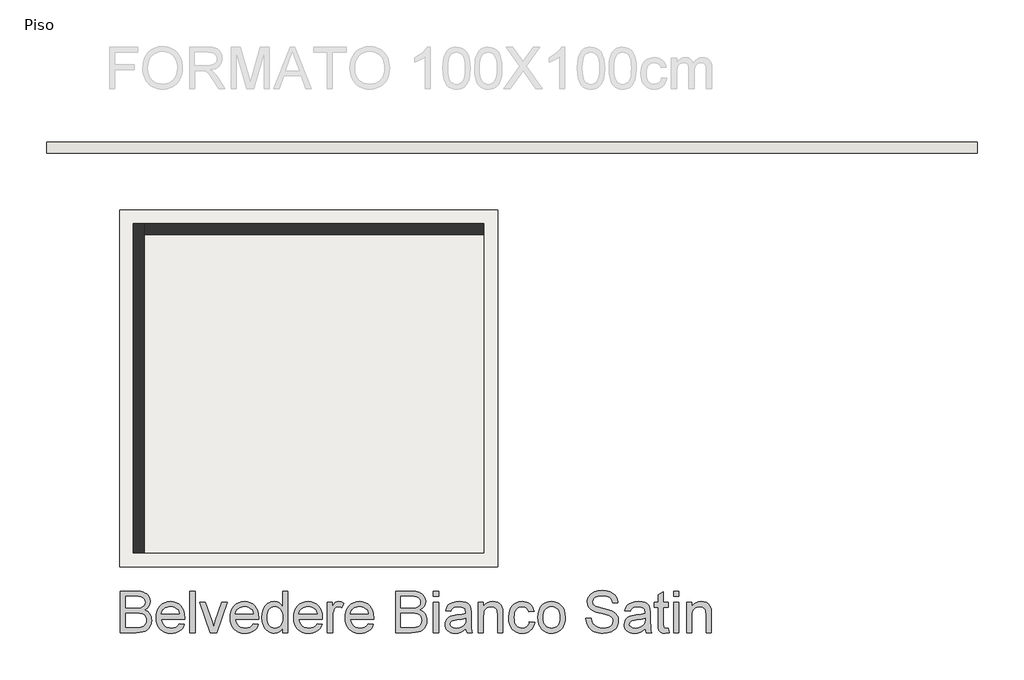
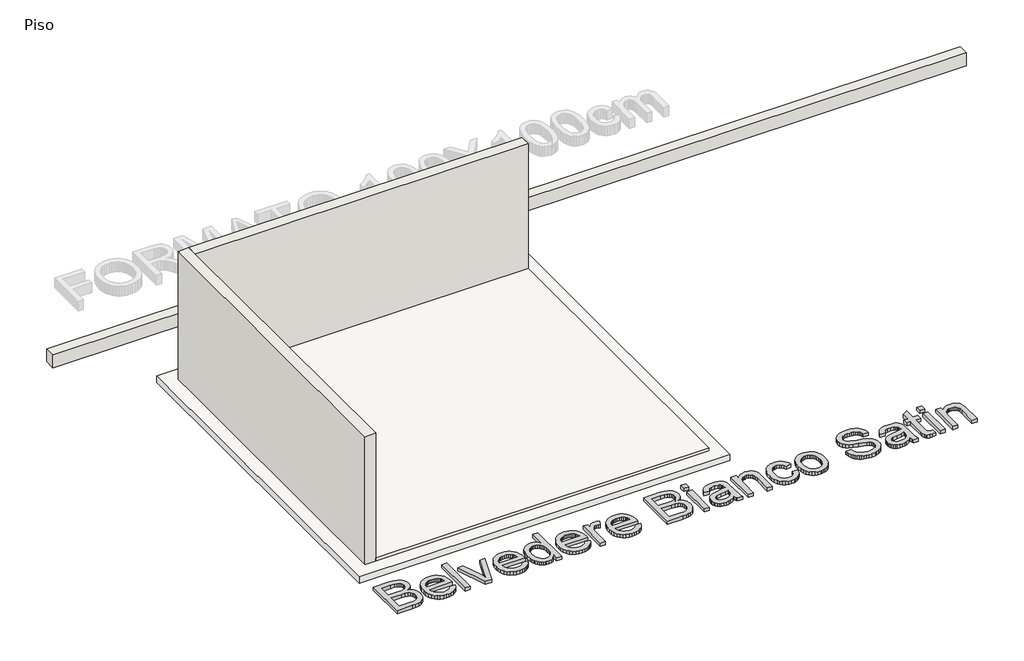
# One storey, part 1 of 2: 3 walls, 2 slabs, 1 proxy.
"""IFC4 building model written with IfcOpenShell, lengths in millimetres."""

from ifc_helpers import new_model, si_unit, frame, origin, origin_with_axes, place, context, project, spatial, polyline, outline, extrude, faceted_brep, element, save

model = new_model("IFC4")

# Units and contexts
model_context = context("Model", 3, world=origin())
ifc_project = project(units=[si_unit("LENGTHUNIT", "METRE", prefix="MILLI")], contexts=[model_context])

# Site, building, storey
site = spatial("IfcSite", under=ifc_project)
building = spatial("IfcBuilding", under=site)
storey = spatial("IfcBuildingStorey", under=building, Name="Piso", Elevation=0.0)

# Proxy
placement = place(None, origin())
element("IfcBuildingElementProxy", 1, Name="600mm Arial", ObjectType="600mm Arial", at=placement, inside=storey, context=model_context, shape_type="SweptSolid", body=[
    extrude(outline(polyline([(92756.7318027, -5192.0704299), (92756.7318027, -4589.332569), (92986.7316261, -4589.332569), (93049.9889352, -4593.765547), (93099.377093, -4607.0644812), (93119.4542529, -4617.1214552), (93137.2321503, -4629.5604652), (93152.7107853, -4644.3815111), (93165.8901578, -4661.5845928), (93183.9347696, -4699.2557092), (93189.9496402, -4738.692659), (93184.8912628, -4774.9842179), (93169.7161305, -4809.1052729), (93144.3138787, -4838.9588968), (93108.5741429, -4862.4481622), (93131.3138487, -4872.1418528), (93151.2668484, -4884.7418111), (93168.433142, -4900.2480372), (93182.8127295, -4918.6605311), (93194.1756847, -4939.4182727), (93202.2920812, -4961.9602419), (93207.1619191, -4986.2864388), (93208.7851984, -5012.3968635), (93204.3522203, -5054.4273814), (93191.0532862, -5093.4044788), (93171.2060526, -5126.5506466), (93147.128176, -5151.0883756), (93117.6424341, -5168.857076), (93081.5716045, -5181.6961576), (93037.7384647, -5189.4768618), (92984.9657925, -5192.0704299), (92756.7318027, -5192.0704299)]), holes=[polyline([(92832.0740353, -4834.194825), (92969.6619015, -4834.194825), (93017.7808665, -4832.5761442), (93050.0073293, -4827.7201019), (93078.1319078, -4816.5548833), (93098.3470234, -4799.8346466), (93110.5423116, -4777.8169092), (93114.6074076, -4750.7591885), (93110.8182231, -4724.492414), (93099.4506694, -4701.6101539), (93081.0197815, -4683.7494831), (93056.040594, -4672.5474763), (93017.7072901, -4666.6429703), (92959.2140529, -4664.6748016), (92832.0740353, -4664.6748016), (92832.0740353, -4834.194825)]), polyline([(92832.0740353, -5116.7281973), (92986.5844733, -5116.7281973), (93042.5025366, -5113.7851413), (93068.4566113, -5107.2552359), (93089.8121611, -5097.3776043), (93107.1761913, -5083.2325416), (93121.1557071, -5063.9003428), (93130.3711511, -5040.2455305), (93133.4429658, -5013.1326274), (93129.8377222, -4981.6419287), (93119.0219916, -4954.5658138), (93100.1312511, -4933.394205), (93072.3009782, -4919.6170243), (93032.8824224, -4912.0570493), (92979.2268334, -4909.5370576), (92832.0740353, -4909.5370576), (92832.0740353, -5116.7281973)])]), origin_with_axes(), (0.0, 0.0, 1.0), 50.0),
    extrude(outline(polyline([(93612.8667819, -5060.2215228), (93686.7374865, -5069.6393019), (93675.4113196, -5099.2262114), (93660.1212242, -5125.2998478), (93640.8672002, -5147.8602111), (93617.6492478, -5166.9073014), (93590.7064902, -5182.0364485), (93560.2780507, -5192.8429821), (93526.3639292, -5199.3269022), (93488.9641259, -5201.488209), (93442.2155214, -5197.7588052), (93400.5620825, -5186.5705941), (93364.0038092, -5167.9235754), (93332.5407016, -5141.8177494), (93307.2396173, -5108.9796828), (93289.1674143, -5070.1359426), (93278.3240925, -5025.2865289), (93274.7096519, -4974.4314415), (93278.3608807, -4921.8519074), (93289.3145671, -4875.507973), (93307.5707111, -4835.3996385), (93333.1293128, -4801.5269038), (93364.5096469, -4774.6163359), (93400.2309887, -4755.3945016), (93440.293338, -4743.8614011), (93484.6966948, -4740.0170342), (93527.6699103, -4743.852204), (93566.5320446, -4755.3577134), (93601.2830976, -4774.5335624), (93631.9230692, -4801.379751), (93656.9344464, -4835.1789093), (93674.7997158, -4875.2136674), (93685.5188774, -4921.4840254), (93689.0919313, -4973.9899832), (93688.6504729, -4994.2970693), (93350.0518845, -4994.2970693), (93354.4158847, -5024.3622253), (93363.0933013, -5050.6933791), (93376.0841342, -5073.2905307), (93393.3883836, -5092.15368), (93414.0495561, -5107.0253097), (93437.1111587, -5117.6479023), (93462.5731913, -5124.0214578), (93490.4356539, -5126.1459764), (93530.5347914, -5122.209639), (93564.3063585, -5110.400627), (93591.7503554, -5089.9831762), (93612.8667819, -5060.2215228)]), holes=[polyline([(93350.0518845, -4918.9548367), (93613.7496987, -4918.9548367), (93603.5593674, -4879.1500048), (93594.7945789, -4863.4966259), (93583.5833751, -4850.6759384), (93563.0371656, -4835.2248946), (93539.6582649, -4824.1884347), (93513.4466727, -4817.5665588), (93484.4023892, -4815.3592668), (93457.910287, -4817.1205019), (93433.6162797, -4822.404207), (93411.5203674, -4831.2103823), (93391.62255, -4843.5390277), (93374.9253059, -4858.819926), (93362.4311137, -4876.4828603), (93354.1399732, -4896.5278305), (93350.0518845, -4918.9548367)])]), origin_with_axes(), (0.0, 0.0, 1.0), 50.0),
    extrude(outline(polyline([(93764.4341639, -5192.0704299), (93764.4341639, -4589.332569), (93839.7763965, -4589.332569), (93839.7763965, -5192.0704299), (93764.4341639, -5192.0704299)])), origin_with_axes(), (0.0, 0.0, 1.0), 50.0),
    extrude(outline(polyline([(94061.3885104, -5192.0704299), (93905.7008501, -4749.4348133), (93985.4576666, -4749.4348133), (94079.7826102, -5014.6041554), (94108.1831002, -5103.7787511), (94135.994979, -5019.6073506), (94230.9085338, -4749.4348133), (94310.6653503, -4749.4348133), (94156.8906764, -5192.0704299), (94061.3885104, -5192.0704299)])), origin_with_axes(), (0.0, 0.0, 1.0), 50.0),
    extrude(outline(polyline([(94686.4935966, -5060.2215228), (94760.3643012, -5069.6393019), (94749.0381343, -5099.2262114), (94733.7480389, -5125.2998478), (94714.494015, -5147.8602111), (94691.2760626, -5166.9073014), (94664.3333049, -5182.0364485), (94633.9048654, -5192.8429821), (94599.990744, -5199.3269022), (94562.5909406, -5201.488209), (94515.8423361, -5197.7588052), (94474.1888972, -5186.5705941), (94437.6306239, -5167.9235754), (94406.1675163, -5141.8177494), (94380.8664321, -5108.9796828), (94362.7942291, -5070.1359426), (94351.9509073, -5025.2865289), (94348.3364666, -4974.4314415), (94351.9876955, -4921.8519074), (94362.9413819, -4875.507973), (94381.1975259, -4835.3996385), (94406.7561275, -4801.5269038), (94438.1364617, -4774.6163359), (94473.8578034, -4755.3945016), (94513.9201527, -4743.8614011), (94558.3235095, -4740.0170342), (94601.2967251, -4743.852204), (94640.1588593, -4755.3577134), (94674.9099123, -4774.5335624), (94705.549884, -4801.379751), (94730.5612611, -4835.1789093), (94748.4265305, -4875.2136674), (94759.1456921, -4921.4840254), (94762.718746, -4973.9899832), (94762.2772876, -4994.2970693), (94423.6786993, -4994.2970693), (94428.0426994, -5024.3622253), (94436.720116, -5050.6933791), (94449.7109489, -5073.2905307), (94467.0151983, -5092.15368), (94487.6763708, -5107.0253097), (94510.7379734, -5117.6479023), (94536.200006, -5124.0214578), (94564.0624686, -5126.1459764), (94604.1616061, -5122.209639), (94637.9331733, -5110.400627), (94665.3771701, -5089.9831762), (94686.4935966, -5060.2215228)]), holes=[polyline([(94423.6786993, -4918.9548367), (94687.3765134, -4918.9548367), (94677.1861821, -4879.1500048), (94668.4213936, -4863.4966259), (94657.2101898, -4850.6759384), (94636.6639804, -4835.2248946), (94613.2850796, -4824.1884347), (94587.0734874, -4817.5665588), (94558.0292039, -4815.3592668), (94531.5371017, -4817.1205019), (94507.2430945, -4822.404207), (94485.1471821, -4831.2103823), (94465.2493647, -4843.5390277), (94448.5521207, -4858.819926), (94436.0579284, -4876.4828603), (94427.7667879, -4896.5278305), (94423.6786993, -4918.9548367)])]), origin_with_axes(), (0.0, 0.0, 1.0), 50.0),
    extrude(outline(polyline([(95111.1765718, -5192.0704299), (95111.1765718, -5120.9956284), (95088.6346026, -5156.2111324), (95061.3285615, -5181.3650638), (95029.2584486, -5196.4574227), (94992.4242638, -5201.488209), (94967.5554409, -5199.6671931), (94943.7166876, -5194.2041455), (94920.9080039, -5185.0990661), (94899.1293898, -5172.351955), (94879.061427, -5156.3444896), (94861.3846971, -5137.4583477), (94846.0992002, -5115.6935292), (94833.2049363, -5091.050034), (94822.9686198, -5063.9969118), (94815.6569651, -5035.0032121), (94809.8076414, -4971.19408), (94815.1971126, -4908.1758942), (94831.3655263, -4851.2645496), (94843.4872381, -4825.908283), (94858.2944884, -4803.6974076), (94875.7872772, -4784.6319232), (94895.9656047, -4768.7118298), (94918.1166993, -4756.1578568), (94941.5277898, -4747.1907331), (94966.1988761, -4741.8104589), (94992.1299582, -4740.0170342), (95028.9917341, -4745.1489881), (95061.5860789, -4760.5448496), (95089.2140167, -4784.1444795), (95111.1765718, -4813.8877389), (95111.1765718, -4589.332569), (95186.5188045, -4589.332569), (95186.5188045, -5192.0704299), (95111.1765718, -5192.0704299)]), holes=[polyline([(94885.149874, -4970.8997744), (94887.2743925, -5007.435055), (94893.6479481, -5039.049914), (94904.2705407, -5065.7443513), (94919.1421704, -5087.5183669), (94936.9016737, -5104.417946), (94956.1878873, -5116.489074), (94977.0008112, -5123.7317508), (94999.3404453, -5126.1459764), (95021.7858455, -5123.8421154), (95042.4746092, -5116.9305324), (95061.4067364, -5105.4112274), (95078.5822271, -5089.2842004), (95092.8422529, -5068.4206928), (95103.0279857, -5042.6919458), (95109.1394253, -5012.0979593), (95111.1765718, -4976.6387335), (95109.1026371, -4937.7628037), (95102.8808329, -4904.4234979), (95092.5111591, -4876.6208161), (95077.9936159, -4854.3547583), (95060.4410462, -4837.2942308), (95040.9662931, -4825.1081397), (95019.5693565, -4817.7964851), (94996.2502366, -4815.3592668), (94973.469144, -4817.699916), (94952.6562201, -4824.7218636), (94933.8114649, -4836.4251096), (94916.9348784, -4852.8096539), (94903.028939, -4874.2341816), (94893.0961251, -4901.0573776), (94887.1364368, -4933.2792419), (94885.149874, -4970.8997744)])]), origin_with_axes(), (0.0, 0.0, 1.0), 50.0),
    extrude(outline(polyline([(95609.4359461, -5060.2215228), (95683.3066507, -5069.6393019), (95671.9804838, -5099.2262114), (95656.6903884, -5125.2998478), (95637.4363645, -5147.8602111), (95614.2184121, -5166.9073014), (95587.2756544, -5182.0364485), (95556.8472149, -5192.8429821), (95522.9330935, -5199.3269022), (95485.5332901, -5201.488209), (95438.7846856, -5197.7588052), (95397.1312467, -5186.5705941), (95360.5729734, -5167.9235754), (95329.1098658, -5141.8177494), (95303.8087816, -5108.9796828), (95285.7365786, -5070.1359426), (95274.8932568, -5025.2865289), (95271.2788161, -4974.4314415), (95274.9300449, -4921.8519074), (95285.8837314, -4875.507973), (95304.1398754, -4835.3996385), (95329.698477, -4801.5269038), (95361.0788112, -4774.6163359), (95396.8001529, -4755.3945016), (95436.8625022, -4743.8614011), (95481.265859, -4740.0170342), (95524.2390746, -4743.852204), (95563.1012088, -4755.3577134), (95597.8522618, -4774.5335624), (95628.4922335, -4801.379751), (95653.5036106, -4835.1789093), (95671.36888, -4875.2136674), (95682.0880416, -4921.4840254), (95685.6610955, -4973.9899832), (95685.2196371, -4994.2970693), (95346.6210488, -4994.2970693), (95350.9850489, -5024.3622253), (95359.6624655, -5050.6933791), (95372.6532984, -5073.2905307), (95389.9575478, -5092.15368), (95410.6187203, -5107.0253097), (95433.6803229, -5117.6479023), (95459.1423555, -5124.0214578), (95487.0048181, -5126.1459764), (95527.1039556, -5122.209639), (95560.8755228, -5110.400627), (95588.3195196, -5089.9831762), (95609.4359461, -5060.2215228)]), holes=[polyline([(95346.6210488, -4918.9548367), (95610.3188629, -4918.9548367), (95600.1285316, -4879.1500048), (95591.3637431, -4863.4966259), (95580.1525393, -4850.6759384), (95559.6063299, -4835.2248946), (95536.2274291, -4824.1884347), (95510.0158369, -4817.5665588), (95480.9715534, -4815.3592668), (95454.4794512, -4817.1205019), (95430.185444, -4822.404207), (95408.0895316, -4831.2103823), (95388.1917142, -4843.5390277), (95371.4944702, -4858.819926), (95359.0002779, -4876.4828603), (95350.7091374, -4896.5278305), (95346.6210488, -4918.9548367)])]), origin_with_axes(), (0.0, 0.0, 1.0), 50.0),
    extrude(outline(polyline([(95761.0033281, -5192.0704299), (95761.0033281, -4749.4348133), (95826.9277817, -4749.4348133), (95826.9277817, -4814.9178084), (95851.2815697, -4776.9523865), (95873.7223714, -4754.5851612), (95896.2367496, -4743.659066), (95920.8112668, -4740.0170342), (95958.3352303, -4745.8295697), (95996.447805, -4763.2671763), (95971.2846766, -4830.8103106), (95944.7971729, -4819.2220278), (95918.3096693, -4815.3592668), (95895.8136853, -4819.074875), (95875.7089342, -4830.2216994), (95859.4669441, -4847.9536116), (95848.559243, -4871.4244829), (95839.3989813, -4913.5101831), (95836.3455607, -4959.4218561), (95836.3455607, -5192.0704299), (95761.0033281, -5192.0704299)])), origin_with_axes(), (0.0, 0.0, 1.0), 50.0),
    extrude(outline(polyline([(96353.4404932, -5060.2215228), (96427.3111978, -5069.6393019), (96415.9850309, -5099.2262114), (96400.6949354, -5125.2998478), (96381.4409115, -5147.8602111), (96358.2229591, -5166.9073014), (96331.2802015, -5182.0364485), (96300.8517619, -5192.8429821), (96266.9376405, -5199.3269022), (96229.5378372, -5201.488209), (96182.7892326, -5197.7588052), (96141.1357937, -5186.5705941), (96104.5775205, -5167.9235754), (96073.1144128, -5141.8177494), (96047.8133286, -5108.9796828), (96029.7411256, -5070.1359426), (96018.8978038, -5025.2865289), (96015.2833632, -4974.4314415), (96018.934592, -4921.8519074), (96029.8882784, -4875.507973), (96048.1444224, -4835.3996385), (96073.703024, -4801.5269038), (96105.0833582, -4774.6163359), (96140.8046999, -4755.3945016), (96180.8670492, -4743.8614011), (96225.270406, -4740.0170342), (96268.2436216, -4743.852204), (96307.1057559, -4755.3577134), (96341.8568088, -4774.5335624), (96372.4967805, -4801.379751), (96397.5081577, -4835.1789093), (96415.373427, -4875.2136674), (96426.0925887, -4921.4840254), (96429.6656426, -4973.9899832), (96429.2241842, -4994.2970693), (96090.6255958, -4994.2970693), (96094.989596, -5024.3622253), (96103.6670125, -5050.6933791), (96116.6578455, -5073.2905307), (96133.9620948, -5092.15368), (96154.6232674, -5107.0253097), (96177.68487, -5117.6479023), (96203.1469026, -5124.0214578), (96231.0093652, -5126.1459764), (96271.1085026, -5122.209639), (96304.8800698, -5110.400627), (96332.3240666, -5089.9831762), (96353.4404932, -5060.2215228)]), holes=[polyline([(96090.6255958, -4918.9548367), (96354.3234099, -4918.9548367), (96344.1330787, -4879.1500048), (96335.3682901, -4863.4966259), (96324.1570863, -4850.6759384), (96303.6108769, -4835.2248946), (96280.2319761, -4824.1884347), (96254.020384, -4817.5665588), (96224.9761004, -4815.3592668), (96198.4839983, -4817.1205019), (96174.189991, -4822.404207), (96152.0940787, -4831.2103823), (96132.1962613, -4843.5390277), (96115.4990172, -4858.819926), (96103.0048249, -4876.4828603), (96094.7136845, -4896.5278305), (96090.6255958, -4918.9548367)])]), origin_with_axes(), (0.0, 0.0, 1.0), 50.0),
    extrude(outline(polyline([(96749.8701312, -5192.0704299), (96749.8701312, -4589.332569), (96979.8699545, -4589.332569), (97043.1272636, -4593.765547), (97092.5154215, -4607.0644812), (97112.5925814, -4617.1214552), (97130.3704788, -4629.5604652), (97145.8491137, -4644.3815111), (97159.0284862, -4661.5845928), (97177.0730981, -4699.2557092), (97183.0879687, -4738.692659), (97178.0295912, -4774.9842179), (97162.8544589, -4809.1052729), (97137.4522072, -4838.9588968), (97101.7124713, -4862.4481622), (97124.4521772, -4872.1418528), (97144.4051769, -4884.7418111), (97161.5714705, -4900.2480372), (97175.951058, -4918.6605311), (97187.3140131, -4939.4182727), (97195.4304096, -4961.9602419), (97200.3002475, -4986.2864388), (97201.9235268, -5012.3968635), (97197.4905488, -5054.4273814), (97184.1916147, -5093.4044788), (97164.344381, -5126.5506466), (97140.2665044, -5151.0883756), (97110.7807625, -5168.857076), (97074.7099329, -5181.6961576), (97030.8767932, -5189.4768618), (96978.104121, -5192.0704299), (96749.8701312, -5192.0704299)]), holes=[polyline([(96825.2123638, -4834.194825), (96962.80023, -4834.194825), (97010.9191949, -4832.5761442), (97043.1456577, -4827.7201019), (97071.2702362, -4816.5548833), (97091.4853519, -4799.8346466), (97103.68064, -4777.8169092), (97107.7457361, -4750.7591885), (97103.9565515, -4724.492414), (97092.5889979, -4701.6101539), (97074.1581099, -4683.7494831), (97049.1789224, -4672.5474763), (97010.8456185, -4666.6429703), (96952.3523813, -4664.6748016), (96825.2123638, -4664.6748016), (96825.2123638, -4834.194825)]), polyline([(96825.2123638, -5116.7281973), (96979.7228017, -5116.7281973), (97035.640865, -5113.7851413), (97061.5949398, -5107.2552359), (97082.9504896, -5097.3776043), (97100.3145198, -5083.2325416), (97114.2940356, -5063.9003428), (97123.5094796, -5040.2455305), (97126.5812942, -5013.1326274), (97122.9760507, -4981.6419287), (97112.16032, -4954.5658138), (97093.2695796, -4933.394205), (97065.4393066, -4919.6170243), (97026.0207508, -4912.0570493), (96972.3651618, -4909.5370576), (96825.2123638, -4909.5370576), (96825.2123638, -5116.7281973)])]), origin_with_axes(), (0.0, 0.0, 1.0), 50.0),
    extrude(outline(polyline([(97296.1013176, -4664.6748016), (97296.1013176, -4589.332569), (97371.4435502, -4589.332569), (97371.4435502, -4664.6748016), (97296.1013176, -4664.6748016)])), origin_with_axes(), (0.0, 0.0, 1.0), 50.0),
    extrude(outline(polyline([(97296.1013176, -5192.0704299), (97296.1013176, -4749.4348133), (97371.4435502, -4749.4348133), (97371.4435502, -5192.0704299), (97296.1013176, -5192.0704299)])), origin_with_axes(), (0.0, 0.0, 1.0), 50.0),
    extrude(outline(polyline([(97766.9902714, -5135.5637554), (97730.9930182, -5166.4290548), (97693.9289072, -5186.6257764), (97654.9518098, -5197.7726008), (97613.2155974, -5201.488209), (97579.669358, -5199.2533259), (97550.252594, -5192.5486765), (97524.9653053, -5181.3742609), (97503.8074921, -5165.730079), (97487.101051, -5146.6094123), (97475.1678788, -5125.0055422), (97468.0079754, -5100.9184685), (97465.621341, -5074.3481914), (97469.2265845, -5043.11501), (97480.0423152, -5014.7513082), (97496.7257637, -4990.4710965), (97517.9341607, -4971.4883856), (97542.8581659, -4957.1409878), (97570.6884388, -4946.7667155), (97635.8771283, -4935.4359501), (97712.9116181, -4923.5165734), (97766.548813, -4909.5370576), (97766.9902714, -4892.7616386), (97761.8031353, -4859.1372243), (97755.3192151, -4846.6844187), (97746.2417269, -4837.1378809), (97730.5515598, -4827.6097373), (97711.4400902, -4820.8039204), (97662.9532432, -4815.3592668), (97618.0716398, -4818.9829045), (97586.7280938, -4829.8538174), (97565.3541499, -4849.9585685), (97550.3813527, -4881.2837204), (97475.0391201, -4871.8659413), (97488.117325, -4830.6631578), (97507.6334648, -4798.2895423), (97535.4085555, -4773.531084), (97573.2636128, -4755.1737724), (97619.5615619, -4743.8062188), (97672.6653279, -4740.0170342), (97723.5985901, -4743.3647604), (97763.9736391, -4753.4079388), (97794.4158742, -4768.5094947), (97815.5506948, -4787.0323532), (97829.5669988, -4809.9330074), (97838.6536841, -4838.1679505), (97842.332504, -4904.0924041), (97842.332504, -4997.8287364), (97846.1584768, -5128.7211503), (97851.8238595, -5161.0763718), (97861.1680622, -5192.0704299), (97785.8258296, -5192.0704299), (97773.7593001, -5165.8772318), (97766.9902714, -5135.5637554)]), holes=[polyline([(97766.9902714, -4984.8792902), (97716.3697089, -4997.4240662), (97645.4420602, -5007.9822795), (97580.6212527, -5020.1959617), (97563.7538632, -5028.546883), (97551.2642695, -5040.0615895), (97543.5387476, -5053.8571643), (97540.9635736, -5069.0506907), (97546.573774, -5091.4547042), (97563.4043753, -5109.8120158), (97591.0874954, -5122.0624862), (97629.2552524, -5126.1459764), (97669.7222719, -5121.6394219), (97705.4804018, -5108.1197586), (97734.4695031, -5088.1989486), (97754.6294364, -5064.488954), (97763.5689689, -5040.0615895), (97766.548813, -5006.2164459), (97766.9902714, -4984.8792902)])]), origin_with_axes(), (0.0, 0.0, 1.0), 50.0),
    extrude(outline(polyline([(97945.9280739, -5192.0704299), (97945.9280739, -4749.4348133), (98021.2703065, -4749.4348133), (98021.2703065, -4811.2389885), (98047.4451104, -4780.0793835), (98078.8806269, -4757.8225228), (98115.576856, -4744.4684064), (98157.5337975, -4740.0170342), (98194.6714849, -4743.6038837), (98228.6821754, -4754.364432), (98257.0458772, -4770.95591), (98277.2425987, -4792.0355483), (98290.9462031, -4817.5481647), (98299.8305532, -4847.4385768), (98303.8036788, -4920.2792119), (98303.8036788, -5192.0704299), (98228.4614462, -5192.0704299), (98228.4614462, -4930.4327549), (98226.2909424, -4891.4740516), (98219.7794311, -4863.7725374), (98207.7680839, -4843.9253038), (98189.0980727, -4828.5294423), (98165.1673489, -4818.6518107), (98137.3738642, -4815.3592668), (98114.4962026, -4817.2078739), (98093.2464188, -4822.7536949), (98073.6245129, -4831.9967301), (98055.6304848, -4844.9369792), (98040.5979068, -4863.0459705), (98029.8603511, -4887.7952317), (98023.4178176, -4919.1847629), (98021.2703065, -4957.2145642), (98021.2703065, -5192.0704299), (97945.9280739, -5192.0704299)])), origin_with_axes(), (0.0, 0.0, 1.0), 50.0),
    extrude(outline(polyline([(98689.9326209, -5031.9681856), (98765.2748535, -5041.3859647), (98757.0802821, -5076.937161), (98744.2687916, -5108.3956701), (98726.8403821, -5135.761492), (98704.7950535, -5159.0346267), (98679.061708, -5177.608069), (98650.5692474, -5190.8748134), (98619.317672, -5198.8348601), (98585.3069815, -5201.488209), (98543.0511358, -5197.7863964), (98505.1638888, -5186.6809587), (98471.6452406, -5168.1718958), (98442.495191, -5142.2592077), (98418.9001595, -5109.4303382), (98402.0465656, -5070.1727308), (98391.9344093, -5024.4863855), (98388.5636905, -4972.3713024), (98394.3210437, -4905.3248088), (98401.5177352, -4875.1538866), (98411.5931034, -4847.2178476), (98424.616126, -4822.0777118), (98440.655781, -4800.2944991), (98459.7120683, -4781.8682097), (98481.7849881, -4766.7988435), (98505.8766602, -4755.0818019), (98530.9892049, -4746.7124865), (98557.1226221, -4741.6908973), (98584.2769119, -4740.0170342), (98617.7035897, -4742.3162967), (98647.9388912, -4749.2140841), (98674.9828163, -4760.7103965), (98698.8353652, -4776.8052337), (98719.0918676, -4797.130714), (98735.3476532, -4821.3189552), (98747.6027222, -4849.3699573), (98755.8570745, -4881.2837204), (98680.5148418, -4890.7014994), (98666.8480257, -4857.8312432), (98645.5660523, -4834.2684014), (98617.846144, -4820.0865505), (98584.8655231, -4815.3592668), (98559.2655348, -4817.6861205), (98536.176341, -4824.6666813), (98515.5979419, -4836.3009494), (98497.5303374, -4852.5889247), (98482.8196562, -4873.9076864), (98472.3120267, -4900.6343133), (98466.007449, -4932.7688056), (98463.9059231, -4970.3111632), (98465.9614637, -5008.4191394), (98472.1280857, -5040.9261122), (98482.4057889, -5067.8320816), (98496.7945735, -5089.1370476), (98514.503493, -5105.328454), (98534.7416013, -5116.8937442), (98557.5088982, -5123.8329183), (98582.8053839, -5126.1459764), (98621.8192695, -5120.370229), (98638.6912575, -5113.1505449), (98653.806609, -5103.0429871), (98666.7422597, -5089.937191), (98677.0751452, -5073.722792), (98684.8052656, -5054.3997902), (98689.9326209, -5031.9681856)])), origin_with_axes(), (0.0, 0.0, 1.0), 50.0),
    extrude(outline(polyline([(98812.3637489, -4970.7526216), (98816.438042, -4913.4274097), (98828.6609213, -4864.0300548), (98849.0323868, -4822.5605569), (98877.5524385, -4789.018916), (98906.2656282, -4767.5805927), (98937.9586621, -4752.2675047), (98972.6315401, -4743.0796518), (99010.2842623, -4740.0170342), (99051.8503293, -4743.7464379), (99089.4340736, -4754.9346491), (99123.0354953, -4773.5816678), (99152.6545945, -4799.6874938), (99176.8290401, -4832.3692106), (99194.0965012, -4870.7439012), (99204.4569779, -4914.8115657), (99207.9104701, -4964.5722041), (99206.3837599, -5004.9012678), (99201.803629, -5040.6869889), (99194.1700776, -5071.9293673), (99183.4831057, -5098.6284031), (99169.8760704, -5121.6900057), (99153.4823289, -5142.0200845), (99134.3018814, -5159.6186394), (99112.3347278, -5174.4856705), (99088.4361937, -5186.2992811), (99063.4616047, -5194.7375744), (99037.4109609, -5199.8005503), (99010.2842623, -5201.488209), (98968.1111901, -5197.7726008), (98930.1779579, -5186.6257764), (98896.4845656, -5168.0477356), (98867.0310134, -5142.0384786), (98843.1140852, -5109.0394636), (98826.030565, -5069.4921491), (98815.780453, -5023.3965351), (98812.3637489, -4970.7526216)]), holes=[polyline([(98887.7059815, -4970.6054688), (98889.8856824, -5007.1499465), (98896.4247848, -5038.7923966), (98907.3232889, -5065.5328191), (98922.5811947, -5087.3712141), (98941.1408413, -5104.3351726), (98961.9445682, -5116.4522858), (98984.9923752, -5123.7225537), (99010.2842623, -5126.1459764), (99035.4473908, -5123.7087581), (99058.4032273, -5116.3971035), (99079.1517718, -5104.2110124), (99097.6930244, -5087.1504849), (99112.9509301, -5065.0959593), (99123.8494342, -5037.9278739), (99130.3885367, -5005.6462288), (99132.5682375, -4968.251024), (99130.3747411, -4932.8653746), (99123.7942519, -4902.050659), (99112.82677, -4875.8068772), (99097.4722952, -4854.1340291), (99078.8620648, -4837.1700706), (99058.1273158, -4825.0529574), (99035.2680483, -4817.7826895), (99010.2842623, -4815.3592668), (98984.9923752, -4817.7734924), (98961.9445682, -4825.0161692), (98941.1408413, -4837.0872972), (98922.5811947, -4853.9868763), (98907.3232889, -4875.7608919), (98896.4247848, -4902.4553292), (98889.8856824, -4934.0701882), (98887.7059815, -4970.6054688)])]), origin_with_axes(), (0.0, 0.0, 1.0), 50.0),
    extrude(outline(polyline([(99509.2794006, -4984.8792902), (99584.6216332, -4984.8792902), (99593.2668601, -5026.689079), (99608.9018449, -5060.2950992), (99633.2924212, -5086.9665439), (99668.2044225, -5107.9726058), (99710.8787339, -5121.6026337), (99758.5562405, -5126.1459764), (99800.5315762, -5122.7062797), (99837.2829875, -5112.3871897), (99867.063035, -5096.0532292), (99888.1242792, -5074.5689206), (99900.6506612, -5049.9024329), (99904.8261218, -5024.0219345), (99901.6991248, -4998.8036237), (99892.318134, -4977.0066155), (99873.2618466, -4958.4101807), (99841.1089602, -4942.79359), (99731.4065493, -4914.0252179), (99659.3936487, -4894.9873247), (99613.3164288, -4876.8691364), (99575.8108594, -4851.522067), (99549.2313853, -4820.8039204), (99533.3940654, -4785.3768842), (99528.1149587, -4745.9031461), (99529.7474351, -4723.466943), (99534.6448642, -4701.7757008), (99542.8072459, -4680.8294197), (99554.2345804, -4660.6280997), (99568.7981089, -4641.9948766), (99586.3690727, -4625.7528865), (99606.9474718, -4611.9021294), (99630.5333062, -4600.4426053), (99683.5451017, -4585.0467438), (99742.2222799, -4579.9147899), (99805.7922887, -4585.285867), (99861.4160464, -4601.3990984), (99885.7514403, -4613.4012485), (99907.1069902, -4627.9233903), (99925.4826958, -4644.9655237), (99940.8785573, -4664.5276488), (99953.175013, -4686.0395485), (99962.2525012, -4708.9310056), (99968.111022, -4733.2020203), (99970.7505753, -4758.8525924), (99895.4083427, -4758.8525924), (99890.3683594, -4734.811504), (99881.5759797, -4713.8974126), (99869.0312037, -4696.1103181), (99852.7340313, -4681.4502206), (99832.3809599, -4669.9906964), (99807.6684869, -4661.805322), (99778.5966122, -4656.8940974), (99745.1653359, -4655.2570225), (99710.6672018, -4656.8757033), (99681.1906569, -4661.7317456), (99656.7357013, -4669.8251495), (99637.3023349, -4681.155915), (99622.4950846, -4694.7767459), (99611.9184772, -4709.740346), (99605.5725128, -4726.0467155), (99603.4571913, -4743.6958542), (99604.9563105, -4758.8801835), (99609.4536679, -4772.6481672), (99616.9492635, -4784.9998052), (99627.4430974, -4795.9350975), (99643.960999, -4806.2909757), (99669.9702561, -4816.7572184), (99750.4628366, -4838.0207977), (99833.5305911, -4858.2175193), (99883.7832717, -4875.8390668), (99926.7334946, -4903.1726991), (99943.3387682, -4919.2399452), (99956.6974831, -4936.907478), (99966.9659893, -4956.083327), (99974.3006366, -4976.6755217), (99980.1683544, -5022.1089481), (99978.4806958, -5045.6763884), (99973.4177198, -5068.55405), (99964.9794265, -5090.7419328), (99953.165816, -5112.2400369), (99938.1838217, -5132.2160293), (99920.2403774, -5149.8375768), (99899.335483, -5165.1046796), (99875.4691386, -5178.0173377), (99849.3357214, -5188.2858439), (99821.6296086, -5195.6204911), (99761.4992965, -5201.488209), (99722.959059, -5199.9063164), (99687.6837741, -5195.1606387), (99655.673442, -5187.2511758), (99626.9280626, -5176.1779277), (99601.272892, -5161.9225004), (99578.5331862, -5144.4664997), (99558.7089452, -5123.8099257), (99541.800169, -5099.9527783), (99528.1793381, -5073.6676097), (99518.2189331, -5045.7269722), (99511.9189539, -5016.1308657), (99509.2794006, -4984.8792902)])), origin_with_axes(), (0.0, 0.0, 1.0), 50.0),
    extrude(outline(polyline([(100366.2972965, -5135.5637554), (100330.3000433, -5166.4290548), (100293.2359323, -5186.6257764), (100254.2588349, -5197.7726008), (100212.5226226, -5201.488209), (100178.9763831, -5199.2533259), (100149.5596191, -5192.5486765), (100124.2723304, -5181.3742609), (100103.1145172, -5165.730079), (100086.4080761, -5146.6094123), (100074.4749039, -5125.0055422), (100067.3150005, -5100.9184685), (100064.9283661, -5074.3481914), (100068.5336097, -5043.11501), (100079.3493403, -5014.7513082), (100096.0327888, -4990.4710965), (100117.2411858, -4971.4883856), (100142.165191, -4957.1409878), (100169.9954639, -4946.7667155), (100235.1841535, -4935.4359501), (100312.2186433, -4923.5165734), (100365.8558382, -4909.5370576), (100366.2972965, -4892.7616386), (100361.1101604, -4859.1372243), (100354.6262403, -4846.6844187), (100345.548752, -4837.1378809), (100329.8585849, -4827.6097373), (100310.7471153, -4820.8039204), (100262.2602683, -4815.3592668), (100217.3786649, -4818.9829045), (100186.0351189, -4829.8538174), (100164.661175, -4849.9585685), (100149.6883778, -4881.2837204), (100074.3461452, -4871.8659413), (100087.4243501, -4830.6631578), (100106.9404899, -4798.2895423), (100134.7155806, -4773.531084), (100172.5706379, -4755.1737724), (100218.868587, -4743.8062188), (100271.972353, -4740.0170342), (100322.9056152, -4743.3647604), (100363.2806642, -4753.4079388), (100393.7228993, -4768.5094947), (100414.8577199, -4787.0323532), (100428.8740239, -4809.9330074), (100437.9607092, -4838.1679505), (100441.6395292, -4904.0924041), (100441.6395292, -4997.8287364), (100445.4655019, -5128.7211503), (100451.1308846, -5161.0763718), (100460.4750873, -5192.0704299), (100385.1328547, -5192.0704299), (100373.0663253, -5165.8772318), (100366.2972965, -5135.5637554)]), holes=[polyline([(100366.2972965, -4984.8792902), (100315.676734, -4997.4240662), (100244.7490853, -5007.9822795), (100179.9282778, -5020.1959617), (100163.0608883, -5028.546883), (100150.5712946, -5040.0615895), (100142.8457727, -5053.8571643), (100140.2705987, -5069.0506907), (100145.8807991, -5091.4547042), (100162.7114004, -5109.8120158), (100190.3945206, -5122.0624862), (100228.5622776, -5126.1459764), (100269.029297, -5121.6394219), (100304.787427, -5108.1197586), (100333.7765282, -5088.1989486), (100353.9364615, -5064.488954), (100362.875994, -5040.0615895), (100365.8558382, -5006.2164459), (100366.2972965, -4984.8792902)])]), origin_with_axes(), (0.0, 0.0, 1.0), 50.0),
    extrude(outline(polyline([(100705.3373433, -5129.2361851), (100714.7551224, -5194.2777219), (100658.3956007, -5201.488209), (100622.2328006, -5198.361212), (100595.2670503, -5188.9802211), (100576.210763, -5174.5224587), (100563.7763516, -5156.1651472), (100556.9337464, -5124.6376602), (100554.6528781, -5070.6693715), (100554.6528781, -4824.7770459), (100498.1462036, -4824.7770459), (100498.1462036, -4749.4348133), (100554.6528781, -4749.4348133), (100554.6528781, -4641.8661179), (100629.9951107, -4597.5731257), (100629.9951107, -4749.4348133), (100705.3373433, -4749.4348133), (100705.3373433, -4824.7770459), (100629.9951107, -4824.7770459), (100629.9951107, -5068.4620795), (100633.9682362, -5107.3104182), (100646.8441061, -5121.0692048), (100657.715019, -5124.8767835), (100672.5222693, -5126.1459764), (100705.3373433, -5129.2361851)])), origin_with_axes(), (0.0, 0.0, 1.0), 50.0),
    extrude(outline(polyline([(100780.6795759, -4664.6748016), (100780.6795759, -4589.332569), (100856.0218085, -4589.332569), (100856.0218085, -4664.6748016), (100780.6795759, -4664.6748016)])), origin_with_axes(), (0.0, 0.0, 1.0), 50.0),
    extrude(outline(polyline([(100780.6795759, -5192.0704299), (100780.6795759, -4749.4348133), (100856.0218085, -4749.4348133), (100856.0218085, -5192.0704299), (100780.6795759, -5192.0704299)])), origin_with_axes(), (0.0, 0.0, 1.0), 50.0),
    extrude(outline(polyline([(100969.0351574, -5192.0704299), (100969.0351574, -4749.4348133), (101044.3773901, -4749.4348133), (101044.3773901, -4811.2389885), (101070.552194, -4780.0793835), (101101.9877105, -4757.8225228), (101138.6839395, -4744.4684064), (101180.6408811, -4740.0170342), (101217.7785685, -4743.6038837), (101251.7892589, -4754.364432), (101280.1529608, -4770.95591), (101300.3496823, -4792.0355483), (101314.0532866, -4817.5481647), (101322.9376368, -4847.4385768), (101326.9107624, -4920.2792119), (101326.9107624, -5192.0704299), (101251.5685297, -5192.0704299), (101251.5685297, -4930.4327549), (101249.398026, -4891.4740516), (101242.8865147, -4863.7725374), (101230.8751675, -4843.9253038), (101212.2051563, -4828.5294423), (101188.2744325, -4818.6518107), (101160.4809477, -4815.3592668), (101137.6032862, -4817.2078739), (101116.3535024, -4822.7536949), (101096.7315965, -4831.9967301), (101078.7375684, -4844.9369792), (101063.7049904, -4863.0459705), (101052.9674346, -4887.7952317), (101046.5249012, -4919.1847629), (101044.3773901, -4957.2145642), (101044.3773901, -5192.0704299), (100969.0351574, -5192.0704299)])), origin_with_axes(), (0.0, 0.0, 1.0), 50.0),
])

# Slabs
element("IfcSlab", 2, ObjectType="5cm - Porcelanato Belvedere Bianco Satin  - Acetinado 100x100", at=placement, inside=storey, context=model_context, shape_type="SweptSolid", body=[
    extrude(outline(polyline([(98026.4220296, 584.0632014), (98026.4220296, -4036.5367986), (93105.8220296, -4036.5367986), (93105.8220296, 584.0632014), (98026.4220296, 584.0632014)])), origin_with_axes(), (0.0, 0.0, 1.0), 50.0),
])
element("IfcSlab", 3, ObjectType="CO02 - Concreto Estrutural Simples", at=placement, inside=storey, context=model_context, shape_type="SweptSolid", body=[
    extrude(outline(polyline([(98226.4220296, 942.8632014), (98226.4220296, -4236.5367986), (92747.0220296, -4236.5367986), (92747.0220296, 942.8632014), (98226.4220296, 942.8632014)])), frame((0.0, 0.0, -100.0), z_axis=(0.0, 0.0, 1.0), x_axis=(1.0, 0.0, 0.0)), (0.0, 0.0, 1.0), 100.0),
])

# Walls
element("IfcWall", 4, ObjectType="CO01 - Bloco de Concreto 14cm / Pintura Branca Simples", at=placement, inside=storey, context=model_context, shape_type="SweptSolid", body=[
    extrude(outline(polyline([(105186.699165, 1765.7486968), (91686.699165, 1765.7486968), (91686.699165, 1924.5486968), (105186.699165, 1924.5486968), (105186.699165, 1765.7486968)])), origin_with_axes(), (0.0, 0.0, 1.0), 200.0),
])
element("IfcWall", 5, ObjectType="CO01 - Bloco de Concreto 14cm / Pintura Branca Simples", at=placement, inside=storey, context=model_context, shape_type="Brep", body=[
    faceted_brep([(93105.8220296, -4036.5367986, 0.0), (93105.8220296, 584.0632014, 0.0), (93105.8220296, 742.8632014, 0.0), (93105.8220296, 742.8632014, 2000.0), (93105.8220296, 584.0632014, 2000.0), (93105.8220296, -4036.5367986, 2000.0), (92947.0220296, -4036.5367986, 0.0), (92947.0220296, -4036.5367986, 2000.0), (92947.0220296, 742.8632014, 2000.0), (92947.0220296, 742.8632014, 0.0)], [[[0, 1, 2, 3, 4, 5]], [[6, 7, 8, 9]], [[2, 1, 0, 6, 9]], [[5, 4, 3, 8, 7]], [[0, 5, 7, 6]], [[3, 2, 9, 8]]]),
])
element("IfcWall", 6, ObjectType="CO01 - Bloco de Concreto 14cm / Pintura Branca Simples", at=placement, inside=storey, context=model_context, shape_type="SweptSolid", body=[
    extrude(outline(polyline([(98026.4220296, 584.0632014), (93105.8220296, 584.0632014), (93105.8220296, 742.8632014), (98026.4220296, 742.8632014), (98026.4220296, 584.0632014)])), origin_with_axes(), (0.0, 0.0, 1.0), 2000.0),
])

save(model, "model.ifc")
